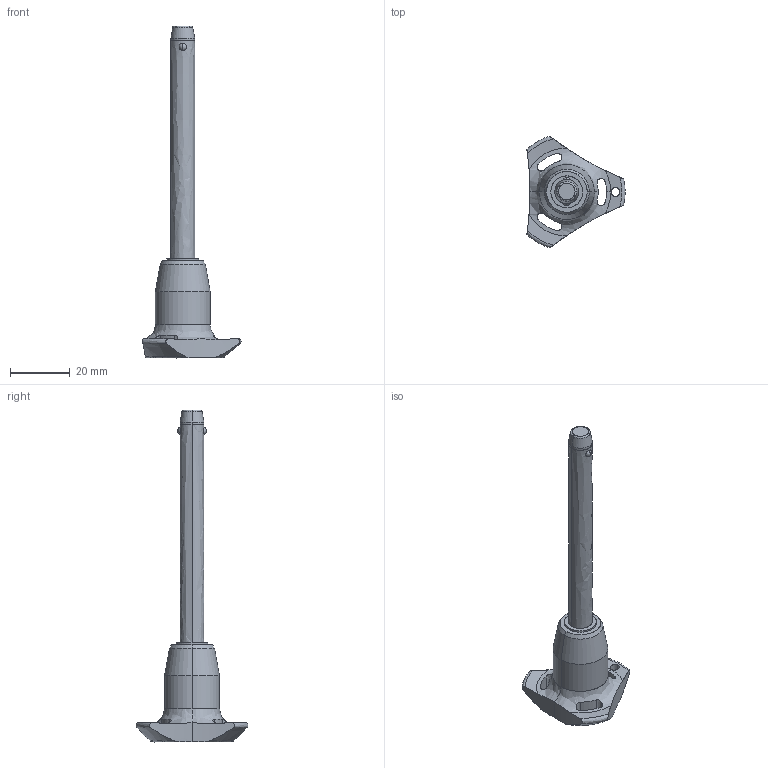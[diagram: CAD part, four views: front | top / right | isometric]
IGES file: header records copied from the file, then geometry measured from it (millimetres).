
Start section: SolidWorks IGES file using analytic representation for surfaces
Global section: file name: C:\Users\ianosborn\Desktop\QR1716_v2\QR1716_v2_20251114_IGES\QR1716.M08-070-T.igs; native system: SolidWorks 2019; preprocessor: SolidWorks 2019; author: IanOsborn; date: 251113.103120; units: millimetre
Bounding box: 33 x 37.51 x 111.5 mm (x, y, z)
Surface area: 5743.2 mm2 (no closed solid volume)
Topology: 0 solids, 0 shells, 68 faces, 1344 edges, 1337 vertices
Faces by surface type: revolution 52, bspline 16
